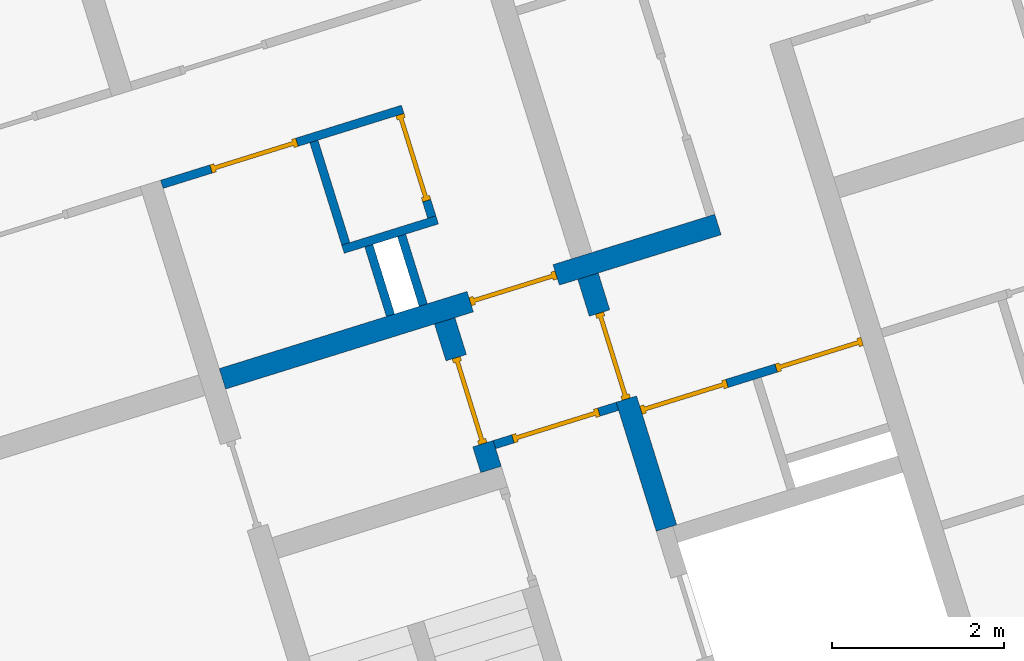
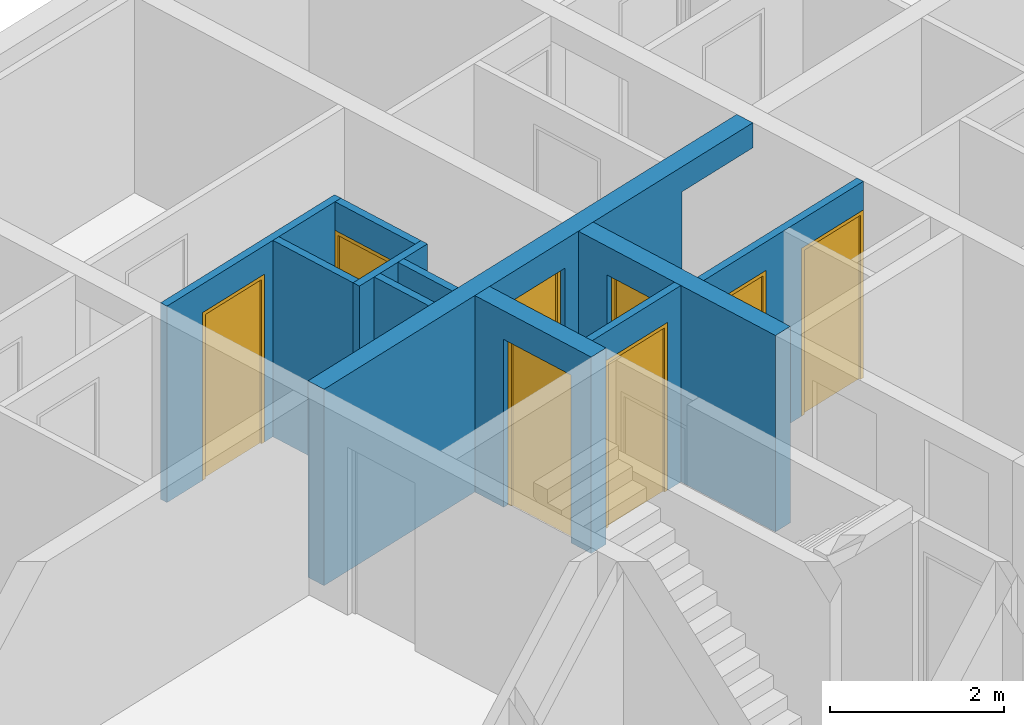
# One storey, part 5 of 9: 11 walls, 8 doors, 11 openings.
"""IFC4 building model written with IfcOpenShell, lengths in metres."""

import ifcopenshell
import ifcopenshell.guid

model = None  # the IFC model being written
_history = None  # IfcOwnerHistory: only IFC2X3 demands one
_inside = {}  # id of a spatial element -> (the spatial element, [elements in it])
_under = {}  # id of a project, library or spatial element -> (it, [spatial elements below it])
_declared = {}  # id of a project -> (the project, [libraries it declares])
_typed = {}  # id of a type object -> (the type object, [elements of that type])
_made_of = {}  # id of a material, layer set ... -> (it, [elements and type objects made of it])


def new_model(schema):
    """Start an empty IFC model of exactly this schema.

    Asked for "IFC4X3", IfcOpenShell would pick the latest addendum, in which some entities
    have other attributes; the version numbers below select the first issue.
    IFC2X3 requires an IfcOwnerHistory on every rooted entity: one is made here for all.
    """
    global model, _history
    if schema == "IFC4X3":
        model = ifcopenshell.file(schema_version=(4, 3, 0, 0))
    else:
        model = ifcopenshell.file(schema=schema)
    _inside.clear()
    _under.clear()
    _declared.clear()
    _typed.clear()
    _made_of.clear()
    _history = None
    if model.schema == "IFC2X3":
        org = make("IfcOrganization", Name="unknown")
        user = make(
            "IfcPersonAndOrganization",
            ThePerson=make("IfcPerson", FamilyName="unknown"),
            TheOrganization=org,
        )
        app = make(
            "IfcApplication",
            ApplicationDeveloper=org,
            Version="unknown",
            ApplicationFullName="unknown",
            ApplicationIdentifier="unknown",
        )
        _history = make(
            "IfcOwnerHistory",
            OwningUser=user,
            OwningApplication=app,
            ChangeAction="ADDED",
            CreationDate=0,
        )
    return model


def make(cls, **values):
    """One entity of the class cls with the attributes given. An attribute that is None is left unset."""
    return model.create_entity(
        cls, **{name: value for name, value in values.items() if value is not None}
    )


def entity(cls, *values):
    """Any entity or typed value of the class cls, its attributes in the order of the schema. None: left unset."""
    e = model.create_entity(cls)
    for i, value in enumerate(values):
        if value is not None:
            e[i] = value
    return e


def rooted(cls, **values):
    """An entity with a GlobalId (a new one), such as an element, a storey or a relation."""
    return make(cls, GlobalId=ifcopenshell.guid.new(), OwnerHistory=_history, **values)


def si_unit(unit_type, name, prefix=None):
    """IfcSIUnit, for example si_unit("LENGTHUNIT", "METRE", prefix="MILLI")."""
    return make("IfcSIUnit", UnitType=unit_type, Prefix=prefix, Name=name)


def converted_unit(unit_type, name, factor, base, dimensions=None, offset=None):
    """IfcConversionBasedUnit, such as the inch: factor (a typed value) times the base unit."""
    return make(
        "IfcConversionBasedUnit"
        if offset is None
        else "IfcConversionBasedUnitWithOffset",
        ConversionOffset=offset,
        Dimensions=None
        if dimensions is None
        else entity("IfcDimensionalExponents", *dimensions),
        UnitType=unit_type,
        Name=name,
        ConversionFactor=make(
            "IfcMeasureWithUnit", ValueComponent=factor, UnitComponent=base
        ),
    )


def assignment(units):
    """IfcUnitAssignment: the units of a project."""
    return None if units is None else make("IfcUnitAssignment", Units=units)


def point(xyz):
    """IfcCartesianPoint."""
    return None if xyz is None else make("IfcCartesianPoint", Coordinates=xyz)


def direction(xyz):
    """IfcDirection."""
    return None if xyz is None else make("IfcDirection", DirectionRatios=xyz)


def frame(location, z_axis=None, x_axis=None):
    """IfcAxis2Placement3D, a coordinate frame: its origin and axes. An axis left out is left unset."""
    return make(
        "IfcAxis2Placement3D",
        Location=point(location),
        Axis=direction(z_axis),
        RefDirection=direction(x_axis),
    )


def origin():
    """The frame at (0, 0, 0) with its axes left unset."""
    return frame((0.0, 0.0, 0.0))


def place(relative_to, where):
    """IfcLocalPlacement: puts the frame where relative to a parent placement (None: the world)."""
    return make(
        "IfcLocalPlacement", PlacementRelTo=relative_to, RelativePlacement=where
    )


def context(
    kind, dimensions, precision=None, world=None, true_north=None, identifier=None
):
    """IfcGeometricRepresentationContext, for example the 3D "Model" context."""
    return make(
        "IfcGeometricRepresentationContext",
        ContextIdentifier=identifier,
        ContextType=kind,
        CoordinateSpaceDimension=dimensions,
        Precision=precision,
        WorldCoordinateSystem=world,
        TrueNorth=true_north,
    )


def subcontext(parent, identifier, kind, view, scale=None):
    """IfcGeometricRepresentationSubContext, for example "Body" below "Model"."""
    return make(
        "IfcGeometricRepresentationSubContext",
        ContextIdentifier=identifier,
        ContextType=kind,
        ParentContext=parent,
        TargetScale=scale,
        TargetView=view,
    )


def project(units=None, contexts=None):
    """IfcProject with its units and contexts."""
    return rooted(
        "IfcProject",
        Name="project",
        RepresentationContexts=contexts,
        UnitsInContext=assignment(units),
    )


def spatial(cls, under=None, at=None, **own):
    """A site, building, storey or space (cls), placed at a placement, below another one or the project."""
    s = rooted(cls, ObjectPlacement=at, **own)
    if under is not None:
        _under.setdefault(under.id(), (under, []))[1].append(s)
    return s


def point_list(points):
    """IfcCartesianPointList2D or 3D."""
    cls = (
        "IfcCartesianPointList2D" if len(points[0]) == 2 else "IfcCartesianPointList3D"
    )
    return make(cls, CoordList=points)


def indexed_curve(points, segments=None, self_intersect=None):
    """IfcIndexedPolyCurve: lines and arcs through numbered points (the first is 1)."""
    return make(
        "IfcIndexedPolyCurve",
        Points=point_list(points),
        Segments=segments,
        SelfIntersect=self_intersect,
    )


def outline(outer, holes=None, kind="AREA"):
    """IfcArbitraryClosedProfileDef: a profile drawn as a closed curve; with holes, ...WithVoids."""
    if holes is None:
        return make("IfcArbitraryClosedProfileDef", ProfileType=kind, OuterCurve=outer)
    return make(
        "IfcArbitraryProfileDefWithVoids",
        ProfileType=kind,
        OuterCurve=outer,
        InnerCurves=holes,
    )


def extrude(swept, where, along, depth):
    """IfcExtrudedAreaSolid: the profile swept, set in the frame where, extruded along a direction by depth."""
    return make(
        "IfcExtrudedAreaSolid",
        SweptArea=swept,
        Position=where,
        ExtrudedDirection=direction(along),
        Depth=depth,
    )


def polygons(points, faces, closed=None, point_numbers=None):
    """IfcPolygonalFaceSet: a face is its outer loop, then its inner loops; points numbered from 1."""
    made = []
    for loops in faces:
        if len(loops) == 1:
            made.append(make("IfcIndexedPolygonalFace", CoordIndex=loops[0]))
        else:
            made.append(
                make(
                    "IfcIndexedPolygonalFaceWithVoids",
                    CoordIndex=loops[0],
                    InnerCoordIndices=loops[1:],
                )
            )
    return make(
        "IfcPolygonalFaceSet",
        Coordinates=point_list(points),
        Closed=closed,
        Faces=made,
        PnIndex=point_numbers,
    )


def shape(context_of_items, identifier, shape_type, items):
    """IfcShapeRepresentation: the items that make up one representation, for example the "Body"."""
    return make(
        "IfcShapeRepresentation",
        ContextOfItems=context_of_items,
        RepresentationIdentifier=identifier,
        RepresentationType=shape_type,
        Items=items,
    )


def source(mapping_origin, context_of_items, identifier, shape_type, items):
    """IfcRepresentationMap: a shape defined once, which mapped items show again and again."""
    return make(
        "IfcRepresentationMap",
        MappingOrigin=mapping_origin,
        MappedRepresentation=shape(context_of_items, identifier, shape_type, items),
    )


def transform(
    local_origin,
    x_axis=None,
    y_axis=None,
    z_axis=None,
    scale=None,
    scale2=None,
    scale3=None,
    uniform=True,
):
    """IfcCartesianTransformationOperator3D, or its non-uniform kind. x_axis, y_axis, z_axis: its Axis1, 2, 3."""
    if uniform:
        return make(
            "IfcCartesianTransformationOperator3D",
            Axis1=direction(x_axis),
            Axis2=direction(y_axis),
            LocalOrigin=point(local_origin),
            Scale=scale,
            Axis3=direction(z_axis),
        )
    return make(
        "IfcCartesianTransformationOperator3DnonUniform",
        Axis1=direction(x_axis),
        Axis2=direction(y_axis),
        LocalOrigin=point(local_origin),
        Scale=scale,
        Axis3=direction(z_axis),
        Scale2=scale2,
        Scale3=scale3,
    )


def mapped(mapping_source, mapping_target):
    """IfcMappedItem: shows the shape of a source again, moved by a transform."""
    return make(
        "IfcMappedItem", MappingSource=mapping_source, MappingTarget=mapping_target
    )


def material(Name=None, Category=None):
    """IfcMaterial."""
    return make("IfcMaterial", Name=Name, Category=Category)


def constituent(of_material, Name=None, Category=None, fraction=None):
    """IfcMaterialConstituent: one of the materials an element consists of."""
    return make(
        "IfcMaterialConstituent",
        Name=Name,
        Material=of_material,
        Fraction=fraction,
        Category=Category,
    )


def constituent_set(constituents=None, Name=None):
    """IfcMaterialConstituentSet."""
    return make(
        "IfcMaterialConstituentSet", Name=Name, MaterialConstituents=constituents
    )


def made_of(thing, what):
    """Note that an element or type object is made of a material, layer set ...; save() writes the relation."""
    if what is not None:
        _made_of.setdefault(what.id(), (what, []))[1].append(thing)
    return thing


def type_object(cls, material=None, **own):
    """A type object (cls), such as IfcWallType, which elements share."""
    return made_of(rooted(cls, **own), material)


def type_shapes(of_type, sources):
    """Give a type object the sources (RepresentationMaps) that its elements show as mapped items."""
    of_type.RepresentationMaps = sources


def element(
    cls,
    number,
    at=None,
    inside=None,
    cuts=None,
    type_object=None,
    material=None,
    context=None,
    identifier="Body",
    shape_type=None,
    held_by="IfcProductDefinitionShape",
    body=None,
    shapes=None,
    **own,
):
    """One element of the class cls, such as IfcWall. Its Tag is "e" and its number.

    at: its placement. inside: the storey or other place that contains it. cuts: it is an
    opening in that element (IfcRelVoidsElement). A single representation is given by context,
    identifier, shape_type and body (its items); several are given by shapes. held_by: the class
    of the entity that holds the representations. save() writes the other relations.
    """
    e = rooted(cls, Tag="e%d" % number, ObjectPlacement=at, **own)
    if body is not None:
        shapes = [shape(context, identifier, shape_type, body)]
    if shapes is not None:
        e.Representation = make(held_by, Representations=shapes)
    if inside is not None:
        _inside.setdefault(inside.id(), (inside, []))[1].append(e)
    if cuts is not None:
        rooted(
            "IfcRelVoidsElement", RelatingBuildingElement=cuts, RelatedOpeningElement=e
        )
    if type_object is not None:
        _typed.setdefault(type_object.id(), (type_object, []))[1].append(e)
    return made_of(e, material)


def fill(opening, filler):
    """IfcRelFillsElement: the door or window that sits in an opening."""
    return rooted(
        "IfcRelFillsElement",
        RelatingOpeningElement=opening,
        RelatedBuildingElement=filler,
    )


def aggregate(whole, parts):
    """IfcRelAggregates: a whole, such as a stair, and the parts it consists of."""
    return rooted("IfcRelAggregates", RelatingObject=whole, RelatedObjects=parts)


def save(model, path):
    """Write the relations noted so far, then the file.

    IfcRelAggregates (storeys below a building ...), IfcRelContainedInSpatialStructure (elements
    in a storey), IfcRelDefinesByType, IfcRelAssociatesMaterial and IfcRelDeclares: one each for
    every whole, place, type object, material and project.
    """
    for whole, parts in _under.values():
        aggregate(whole, parts)
    for where, things in _inside.values():
        rooted(
            "IfcRelContainedInSpatialStructure",
            RelatedElements=things,
            RelatingStructure=where,
        )
    for kind, things in _typed.values():
        rooted("IfcRelDefinesByType", RelatedObjects=things, RelatingType=kind)
    for what, things in _made_of.values():
        rooted("IfcRelAssociatesMaterial", RelatedObjects=things, RelatingMaterial=what)
    for by, libraries in _declared.values():
        rooted("IfcRelDeclares", RelatingContext=by, RelatedDefinitions=libraries)
    model.write(path)


model = new_model("IFC4")

# Units and contexts
model_context = context("Model", 3, precision=1e-05, world=origin(), true_north=direction((6.12323399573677e-17, 1.0)))
body_context = subcontext(model_context, "Body", "Model", "MODEL_VIEW")
ifc_project = project(units=[si_unit("LENGTHUNIT", "METRE"), si_unit("AREAUNIT", "SQUARE_METRE"), converted_unit("PLANEANGLEUNIT", "DEGREE", entity("IfcPlaneAngleMeasure", 0.0174532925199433), si_unit("PLANEANGLEUNIT", "RADIAN"), dimensions=[0, 0, 0, 0, 0, 0, 0]), si_unit("VOLUMEUNIT", "CUBIC_METRE")], contexts=[model_context])

# Site, building, storey
site_placement = place(None, frame((13.1347999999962, 11.9886000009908, 0.0), z_axis=(0.0, 0.0, 1.0), x_axis=(0.954770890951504, 0.297342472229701, 0.0)))
site = spatial("IfcSite", under=ifc_project, at=site_placement, Name="Schiehaven", CompositionType="ELEMENT")
building_placement = place(site_placement, origin())
building = spatial("IfcBuilding", under=site, at=building_placement, Name="VORM huis", CompositionType="ELEMENT")
storey_placement = place(building_placement, frame((0.0, 0.0, 15.9)))
storey = spatial("IfcBuildingStorey", under=building, at=storey_placement, Name="05 vijfde verdieping", CompositionType="ELEMENT", Elevation=15.9)

# Wall, openings, door
ifc_material_1 = material(Name="beton_gewapend_ihw", Category="Miscellaneous")
wall_type_1 = type_object("IfcWallType", Name="Basic Wall:28_WA_skelet_wand 250mm_gen", PredefinedType="STANDARD")
wall_1_placement = place(storey_placement, frame((72.3749999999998, 22.1999999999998, 0.0), z_axis=(0.0, 0.0, 1.0), x_axis=(-1.0, 0.0, 0.0)))
wall_1 = element("IfcWall", 1, at=wall_1_placement, inside=storey, type_object=wall_type_1, material=ifc_material_1, Name="Constructieve wand", ObjectType="Wand", PredefinedType="NOTDEFINED", context=body_context, shape_type="Tessellation", body=[
    polygons([(4.225, -0.124999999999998, 2.34999999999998), (4.225, -0.124999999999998, -2.16573425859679e-15), (7.25000000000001, -0.124999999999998, -2.16573425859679e-15), (7.25000000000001, -0.124999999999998, 2.75), (9.99819487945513e-15, -0.124999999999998, 2.75), (9.99819487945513e-15, -0.124999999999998, 2.4), (1.2, -0.124999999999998, 2.4), (1.2, -0.124999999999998, -2.16573425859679e-15), (3.175, -0.124999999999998, -2.16573425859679e-15), (3.175, -0.124999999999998, 2.34999999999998), (7.25000000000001, 0.125000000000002, -2.16573425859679e-15), (4.22500000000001, 0.125000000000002, -2.16573425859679e-15), (4.22500000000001, 0.125000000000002, 2.34999999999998), (3.175, 0.125000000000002, 2.34999999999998), (3.175, 0.125000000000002, -2.16573425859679e-15), (1.2, 0.125000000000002, -2.16573425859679e-15), (1.2, 0.125000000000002, 2.4), (1.32815610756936e-14, 0.125000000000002, 2.4), (1.32815610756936e-14, 0.125000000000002, 2.75), (7.25, 0.125000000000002, 2.75)], [[[1, 2, 3, 4, 5, 6, 7, 8, 9, 10]], [[11, 12, 13, 14, 15, 16, 17, 18, 19, 20]], [[9, 8, 16, 15]], [[5, 4, 20, 19]], [[5, 19, 18, 6]], [[15, 14, 10, 9]], [[13, 12, 2, 1]], [[14, 13, 1, 10]], [[7, 17, 16, 8]], [[17, 7, 6, 18]], [[4, 3, 11, 20]], [[3, 2, 12, 11]]], closed=True),
])
opening_1_placement = place(wall_1_placement, origin())
element("IfcOpeningElement", 2, at=opening_1_placement, cuts=wall_1, Name="Constructieve wand", PredefinedType="OPENING", context=body_context, shape_type="SweptSolid", body=[
    extrude(outline(indexed_curve([(-1.2, -0.600000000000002), (1.2, -0.600000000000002), (1.2, 0.600000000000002), (-1.2, 0.600000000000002), (-1.2, -0.600000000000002)], self_intersect=False)), frame((0.599999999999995, -0.124999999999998, 1.2), z_axis=(0.0, 1.0, 0.0), x_axis=(0.0, 0.0, -1.0)), (0.0, 0.0, 1.0), 0.250000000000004),
])
opening_2_placement = place(wall_1_placement, frame((3.175, -0.124999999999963, 0.0)))
opening_2 = element("IfcOpeningElement", 3, at=opening_2_placement, cuts=wall_1, Name="Woningtoegangsdeur", PredefinedType="OPENING", context=body_context, shape_type="SweptSolid", body=[
    extrude(outline(indexed_curve([(2.34999999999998, 2.2221558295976e-31), (2.34999999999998, 1.05), (0.0, 1.05), (0.0, 2.2221558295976e-31), (2.34999999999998, 2.2221558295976e-31)], self_intersect=False)), frame((0.0, 0.0, 0.0), z_axis=(0.0, 1.0, 0.0), x_axis=(0.0, 0.0, 1.0)), (0.0, 0.0, 1.0), 0.25),
])
ifc_material_2 = material(Name="PD_a_binnenwandopeningen", Category="Miscellaneous")
ifc_constituent_1 = constituent(ifc_material_2, Name="PD_a_binnenwandopeningen", Category="Miscellaneous")
ifc_material_3 = material(Name="metaal_aluminium_ntb", Category="Miscellaneous")
ifc_constituent_2 = constituent(ifc_material_3, Name="metaal_aluminium_ntb", Category="Miscellaneous")
ifc_constituent_set_1 = constituent_set(constituents=[ifc_constituent_1, ifc_constituent_2])
ifc_constituent_3 = constituent(ifc_material_2, Name="PD_a_binnenwandopeningen", Category="Miscellaneous")
ifc_constituent_4 = constituent(ifc_material_3, Name="Panel", Category="Miscellaneous")
ifc_constituent_set_2 = constituent_set(constituents=[ifc_constituent_3, ifc_constituent_4])
door_type_1 = type_object("IfcDoorType", Name="32_DO_binnendeur enkel:woningtoegangsdeur", OperationType="REVOLVING", PredefinedType="DOOR", material=ifc_constituent_set_2)
shared_shape_1 = source(origin(), body_context, "Body", "SweptSolid", [
    extrude(outline(indexed_curve([(0.475, -1.16249999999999), (0.525000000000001, -1.16249999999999), (0.525000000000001, 1.18749999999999), (-0.525000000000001, 1.18749999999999), (-0.525000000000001, -1.16249999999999), (-0.475, -1.16249999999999), (-0.475, 1.13749999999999), (0.475, 1.13749999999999), (0.475, -1.16249999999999)], self_intersect=False)), frame((0.525000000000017, 0.174999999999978, 1.16249999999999), z_axis=(0.0, -1.0, 0.0), x_axis=(1.0, 0.0, 0.0)), (0.0, 0.0, 1.0), 0.1),
    extrude(outline(indexed_curve([(-0.475, -0.025), (0.475, -0.025), (0.475, 0.025), (-0.475, 0.025), (-0.475, -0.025)], self_intersect=False)), frame((0.525000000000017, 0.12499999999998, 0.0)), (0.0, 0.0, 1.0), 2.29999999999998),
])
type_shapes(door_type_1, [shared_shape_1])
door_1_placement = place(opening_2_placement, origin())
door_1 = element("IfcDoor", 4, at=door_1_placement, inside=storey, type_object=door_type_1, material=ifc_constituent_set_1, Name="Woningtoegangsdeur", ObjectType="Deur", OperationType="REVOLVING", OverallHeight=2.34999999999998, OverallWidth=1.05, PredefinedType="DOOR", context=body_context, shape_type="MappedRepresentation", body=[
    mapped(shared_shape_1, transform((0.0, 0.0, 0.0), scale=1.0)),
])
fill(opening_2, door_1)

# Wall, opening, door
ifc_material_4 = material(Name="ntb_ntb_ntb", Category="Miscellaneous")
wall_type_2 = type_object("IfcWallType", Name="Basic Wall:22_WA_afbouw_binnenwand 250mm_gen", PredefinedType="STANDARD")
wall_2_placement = place(storey_placement, frame((67.7999999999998, 20.2599999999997, 0.0), z_axis=(0.0, 0.0, 1.0), x_axis=(0.0, 1.0, 0.0)))
wall_2 = element("IfcWall", 5, at=wall_2_placement, inside=storey, type_object=wall_type_2, material=ifc_material_4, Name="Binnenwand", ObjectType="Wand", PredefinedType="NOTDEFINED", context=body_context, shape_type="Tessellation", body=[
    polygons([(4.33146851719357e-15, -0.125000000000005, -2.16573425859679e-15), (0.215000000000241, -0.125, -2.16573425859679e-15), (0.31500000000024, -0.125000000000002, -2.16573425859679e-15), (0.31500000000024, -0.125000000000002, 2.34999999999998), (1.36500000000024, -0.124999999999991, 2.34999999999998), (1.36500000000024, -0.124999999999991, -2.16573425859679e-15), (1.81500000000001, -0.124999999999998, -2.16573425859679e-15), (1.81500000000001, -0.124999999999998, 2.75), (0.31500000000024, -0.125000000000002, 2.75), (0.215000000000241, -0.125, 2.75), (4.33146851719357e-15, -0.125000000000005, 2.75), (0.31500000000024, 0.125000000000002, 2.34999999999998), (0.31500000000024, 0.125000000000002, -2.16573425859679e-15), (8.66293703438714e-15, 0.125000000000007, -2.16573425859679e-15), (4.33146851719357e-15, 0.125000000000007, 2.75), (1.81500000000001, 0.124999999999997, 2.75), (1.81500000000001, 0.124999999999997, -2.16573425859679e-15), (1.36500000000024, 0.125000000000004, -2.16573425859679e-15), (1.36500000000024, 0.125000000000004, 2.34999999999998)], [[[1, 2, 3, 4, 5, 6, 7, 8, 9, 10, 11]], [[12, 13, 14, 15, 16, 17, 18, 19]], [[14, 13, 3, 2, 1]], [[8, 7, 17, 16]], [[11, 10, 9, 8, 16, 15]], [[6, 5, 19, 18]], [[4, 3, 13, 12]], [[5, 4, 12, 19]], [[1, 11, 15, 14]], [[18, 17, 7, 6]]], closed=True),
])
opening_3_placement = place(wall_2_placement, frame((1.36500000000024, 0.125000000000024, 0.0)))
opening_3 = element("IfcOpeningElement", 6, at=opening_3_placement, cuts=wall_2, Name="Woningtoegangsdeur", PredefinedType="OPENING", context=body_context, shape_type="SweptSolid", body=[
    extrude(outline(indexed_curve([(2.34999999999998, 0.0), (2.34999999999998, 1.05), (0.0, 1.05), (0.0, 0.0), (2.34999999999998, 0.0)], self_intersect=False)), frame((0.0, 0.0, 0.0), z_axis=(0.0, -1.0, 0.0), x_axis=(0.0, 0.0, 1.0)), (0.0, 0.0, 1.0), 0.25),
])
ifc_constituent_5 = constituent(ifc_material_2, Name="PD_a_binnenwandopeningen", Category="Miscellaneous")
ifc_constituent_6 = constituent(ifc_material_3, Name="metaal_aluminium_ntb", Category="Miscellaneous")
ifc_constituent_set_3 = constituent_set(constituents=[ifc_constituent_5, ifc_constituent_6])
ifc_constituent_7 = constituent(ifc_material_2, Name="PD_a_binnenwandopeningen", Category="Miscellaneous")
ifc_constituent_8 = constituent(ifc_material_3, Name="Panel", Category="Miscellaneous")
ifc_constituent_set_4 = constituent_set(constituents=[ifc_constituent_7, ifc_constituent_8])
door_type_2 = type_object("IfcDoorType", Name="32_DO_binnendeur enkel:woningtoegangsdeur", OperationType="REVOLVING", PredefinedType="DOOR", material=ifc_constituent_set_4)
shared_shape_2 = source(origin(), body_context, "Body", "SweptSolid", [
    extrude(outline(indexed_curve([(0.475, -1.16249999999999), (0.525000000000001, -1.16249999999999), (0.525000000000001, 1.18749999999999), (-0.525000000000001, 1.18749999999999), (-0.525000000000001, -1.16249999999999), (-0.475, -1.16249999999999), (-0.475, 1.13749999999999), (0.475, 1.13749999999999), (0.475, -1.16249999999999)], self_intersect=False)), frame((0.525000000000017, 0.174999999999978, 1.16249999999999), z_axis=(0.0, -1.0, 0.0), x_axis=(1.0, 0.0, 0.0)), (0.0, 0.0, 1.0), 0.1),
    extrude(outline(indexed_curve([(-0.475, -0.025), (0.475, -0.025), (0.475, 0.025), (-0.475, 0.025), (-0.475, -0.025)], self_intersect=False)), frame((0.525000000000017, 0.12499999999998, 0.0)), (0.0, 0.0, 1.0), 2.29999999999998),
])
type_shapes(door_type_2, [shared_shape_2])
door_2_placement = place(opening_3_placement, frame((0.0, 0.0, 0.0), z_axis=(0.0, 0.0, 1.0), x_axis=(-1.0, 0.0, 0.0)))
door_2 = element("IfcDoor", 7, at=door_2_placement, inside=storey, type_object=door_type_2, material=ifc_constituent_set_3, Name="Woningtoegangsdeur", ObjectType="Deur", OperationType="REVOLVING", OverallHeight=2.34999999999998, OverallWidth=1.05, PredefinedType="DOOR", context=body_context, shape_type="MappedRepresentation", body=[
    mapped(shared_shape_2, transform((0.0, 0.0, 0.0), scale=1.0)),
])
fill(opening_3, door_2)

wall_3_placement = place(storey_placement, frame((69.5499999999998, 19.0, 0.0), z_axis=(0.0, 0.0, 1.0), x_axis=(0.0, 1.0, 0.0)))
wall_3 = element("IfcWall", 8, at=wall_3_placement, inside=storey, type_object=wall_type_2, material=ifc_material_4, Name="Binnenwand", ObjectType="Wand", PredefinedType="NOTDEFINED", context=body_context, shape_type="Tessellation", body=[
    polygons([(2.62500000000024, -0.12500000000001, 2.34999999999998), (2.62500000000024, -0.12500000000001, -2.16573425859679e-15), (3.075, -0.125000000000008, -2.16573425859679e-15), (3.075, -0.125000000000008, 2.75), (0.0, -0.125000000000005, 2.75), (0.0, -0.125000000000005, -2.16573425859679e-15), (1.57500000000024, -0.125000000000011, -2.16573425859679e-15), (1.57500000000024, -0.125000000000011, 2.34999999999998), (3.075, 0.124999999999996, -2.16573425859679e-15), (2.62500000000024, 0.125000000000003, -2.16573425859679e-15), (2.62500000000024, 0.125000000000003, 2.34999999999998), (1.57500000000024, 0.124999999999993, 2.34999999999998), (1.57500000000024, 0.124999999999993, -2.16573425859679e-15), (1.4750000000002, 0.124999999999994, -2.16573425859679e-15), (2.16573425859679e-15, 0.12499999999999, -2.16573425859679e-15), (2.16573425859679e-15, 0.12499999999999, 2.75), (1.4750000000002, 0.124999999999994, 2.75), (1.5750000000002, 0.124999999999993, 2.75), (3.075, 0.124999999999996, 2.75)], [[[1, 2, 3, 4, 5, 6, 7, 8]], [[9, 10, 11, 12, 13, 14, 15, 16, 17, 18, 19]], [[7, 6, 15, 14, 13]], [[4, 3, 9, 19]], [[5, 4, 19, 18, 17, 16]], [[6, 5, 16, 15]], [[13, 12, 8, 7]], [[11, 10, 2, 1]], [[12, 11, 1, 8]], [[3, 2, 10, 9]]], closed=True),
])
opening_4_placement = place(wall_3_placement, frame((1.57499999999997, -0.124999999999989, 0.0)))
opening_4 = element("IfcOpeningElement", 9, at=opening_4_placement, cuts=wall_3, Name="Woningtoegangsdeur", PredefinedType="OPENING", context=body_context, shape_type="SweptSolid", body=[
    extrude(outline(indexed_curve([(2.34999999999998, 0.0), (2.34999999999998, 1.05), (0.0, 1.05), (0.0, 0.0), (2.34999999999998, 0.0)], self_intersect=False)), frame((0.0, 0.0, 0.0), z_axis=(0.0, 1.0, 0.0), x_axis=(0.0, 0.0, 1.0)), (0.0, 0.0, 1.0), 0.25),
])
ifc_constituent_9 = constituent(ifc_material_2, Name="PD_a_binnenwandopeningen", Category="Miscellaneous")
ifc_constituent_10 = constituent(ifc_material_3, Name="metaal_aluminium_ntb", Category="Miscellaneous")
ifc_constituent_set_5 = constituent_set(constituents=[ifc_constituent_9, ifc_constituent_10])
door_3_placement = place(opening_4_placement, origin())
door_3 = element("IfcDoor", 10, at=door_3_placement, inside=storey, type_object=door_type_2, material=ifc_constituent_set_5, Name="Woningtoegangsdeur", ObjectType="Deur", OperationType="REVOLVING", OverallHeight=2.34999999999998, OverallWidth=1.05, PredefinedType="DOOR", context=body_context, shape_type="MappedRepresentation", body=[
    mapped(shared_shape_2, transform((0.0, 0.0, 0.0), scale=1.0)),
])
fill(opening_4, door_3)

wall_type_3 = type_object("IfcWallType", Name="Basic Wall:22_WA_afbouw_binnenwand 100mm_gen", PredefinedType="STANDARD")
wall_4_placement = place(storey_placement, frame((67.9249999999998, 20.5249999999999, 0.0)))
wall_4 = element("IfcWall", 11, at=wall_4_placement, inside=storey, type_object=wall_type_3, material=ifc_material_4, Name="Binnenwand", ObjectType="Wand", PredefinedType="NOTDEFINED", context=body_context, shape_type="Tessellation", body=[
    polygons([(1.50000000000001, -0.0500000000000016, 2.75), (1.03359612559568e-15, -0.0499999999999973, 2.75), (1.03359612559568e-15, -0.0499999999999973, -2.16573425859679e-15), (0.225000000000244, -0.0500000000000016, -2.16573425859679e-15), (0.225000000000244, -0.0500000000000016, 2.34999999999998), (1.27500000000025, -0.0500000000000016, 2.34999999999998), (1.27500000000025, -0.0500000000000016, -2.16573425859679e-15), (1.50000000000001, -0.0500000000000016, -2.16573425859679e-15), (6.15545946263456e-16, 0.0500000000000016, 2.75), (1.50000000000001, 0.0499999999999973, 2.75), (1.50000000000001, 0.0499999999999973, 2.34999999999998), (1.50000000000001, 0.0499999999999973, -2.16573425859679e-15), (1.27500000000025, 0.0499999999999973, -2.16573425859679e-15), (1.27500000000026, 0.0499999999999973, 2.34999999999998), (0.225000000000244, 0.0499999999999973, 2.34999999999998), (0.225000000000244, 0.0499999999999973, -2.16573425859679e-15), (6.15545946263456e-16, 0.0500000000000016, -2.16573425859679e-15), (6.15545946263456e-16, 0.0500000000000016, 2.34999999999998)], [[[1, 2, 3, 4, 5, 6, 7, 8]], [[9, 10, 11, 12, 13, 14, 15, 16, 17, 18]], [[3, 17, 16, 4]], [[2, 1, 10, 9]], [[15, 5, 4, 16]], [[5, 15, 14, 6]], [[6, 14, 13, 7]], [[1, 8, 12, 11, 10]], [[3, 2, 9, 18, 17]], [[12, 8, 7, 13]]], closed=True),
])
opening_5_placement = place(wall_4_placement, frame((1.27500000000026, 0.0499999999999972, 0.0)))
opening_5 = element("IfcOpeningElement", 12, at=opening_5_placement, cuts=wall_4, Name="Vluchtdeur", PredefinedType="OPENING", context=body_context, shape_type="SweptSolid", body=[
    extrude(outline(indexed_curve([(2.34999999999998, -1.78601455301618e-29), (2.34999999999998, 1.05), (0.0, 1.05), (0.0, -1.78601455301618e-29), (2.34999999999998, -1.78601455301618e-29)], self_intersect=False)), frame((0.0, 0.0, 0.0), z_axis=(0.0, -1.0, 0.0), x_axis=(0.0, 0.0, 1.0)), (0.0, 0.0, 1.0), 0.1),
])
ifc_constituent_11 = constituent(ifc_material_2, Name="PD_a_binnenwandopeningen", Category="Miscellaneous")
ifc_constituent_12 = constituent(ifc_material_3, Name="metaal_aluminium_ntb", Category="Miscellaneous")
ifc_constituent_set_6 = constituent_set(constituents=[ifc_constituent_11, ifc_constituent_12])
ifc_constituent_13 = constituent(ifc_material_2, Name="PD_a_binnenwandopeningen", Category="Miscellaneous")
ifc_constituent_14 = constituent(ifc_material_3, Name="Panel", Category="Miscellaneous")
ifc_constituent_set_7 = constituent_set(constituents=[ifc_constituent_13, ifc_constituent_14])
door_type_3 = type_object("IfcDoorType", Name="32_DO_binnendeur enkel:binnendeur zelfsluitend 30min", OperationType="NOTDEFINED", PredefinedType="DOOR", material=ifc_constituent_set_7)
shared_shape_3 = source(origin(), body_context, "Body", "SweptSolid", [
    extrude(outline(indexed_curve([(0.475, -1.16249999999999), (0.525, -1.16249999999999), (0.525, 1.18749999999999), (-0.525, 1.18749999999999), (-0.525, -1.16249999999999), (-0.475, -1.16249999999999), (-0.475, 1.13749999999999), (0.475, 1.13749999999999), (0.475, -1.16249999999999)], self_intersect=False)), frame((0.525000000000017, 0.100000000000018, 1.16249999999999), z_axis=(0.0, -1.0, 0.0), x_axis=(1.0, 0.0, 0.0)), (0.0, 0.0, 1.0), 0.1),
    extrude(outline(indexed_curve([(-0.475, -0.025), (0.475, -0.025), (0.475, 0.025), (-0.475, 0.025), (-0.475, -0.025)], self_intersect=False)), frame((0.525000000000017, 0.0499999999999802, 0.0)), (0.0, 0.0, 1.0), 2.29999999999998),
])
type_shapes(door_type_3, [shared_shape_3])
door_4_placement = place(opening_5_placement, frame((0.0, 0.0, 0.0), z_axis=(0.0, 0.0, 1.0), x_axis=(-1.0, 0.0, 0.0)))
door_4 = element("IfcDoor", 13, at=door_4_placement, inside=storey, type_object=door_type_3, material=ifc_constituent_set_6, Name="Vluchtdeur", ObjectType="Deur", OperationType="NOTDEFINED", OverallHeight=2.34999999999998, OverallWidth=1.05, PredefinedType="DOOR", context=body_context, shape_type="MappedRepresentation", body=[
    mapped(shared_shape_3, transform((0.0, 0.0, 0.0), scale=1.0)),
])
fill(opening_5, door_4)

# Wall, openings, door
wall_5_placement = place(storey_placement, frame((65.1249999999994, 24.5750000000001, 0.0)))
wall_5 = element("IfcWall", 14, at=wall_5_placement, inside=storey, type_object=wall_type_3, material=ifc_material_4, Name="Binnenwand", ObjectType="Wand", PredefinedType="NOTDEFINED", context=body_context, shape_type="Tessellation", body=[
    polygons([(1.65, -0.0499999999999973, 2.34999999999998), (1.65, -0.0499999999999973, 0.0), (1.79100000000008, -0.049999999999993, 0.0), (1.89100000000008, -0.0499999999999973, 0.0), (2.94100000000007, -0.0499999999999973, 0.0), (2.94100000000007, -0.0499999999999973, 2.34999999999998), (2.94100000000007, -0.0499999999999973, 2.75), (2.84100000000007, -0.0499999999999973, 2.75), (1.89100000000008, -0.0499999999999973, 2.75), (1.79100000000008, -0.049999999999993, 2.75), (-1.42600901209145e-15, -0.0499999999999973, 2.75), (-1.42600901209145e-15, -0.0499999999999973, 0.0), (0.600000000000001, -0.049999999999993, 0.0), (0.600000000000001, -0.049999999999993, 2.34999999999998), (2.94100000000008, 0.0500000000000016, 0.0), (1.65000000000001, 0.0500000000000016, 0.0), (1.65000000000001, 0.0500000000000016, 2.34999999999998), (0.600000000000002, 0.050000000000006, 2.34999999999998), (0.600000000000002, 0.050000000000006, 0.0), (-3.36814153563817e-16, 0.0500000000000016, 0.0), (-3.36814153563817e-16, 0.0500000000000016, 2.75), (2.94100000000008, 0.0500000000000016, 2.75)], [[[1, 2, 3, 4, 5, 6, 7, 8, 9, 10, 11, 12, 13, 14]], [[15, 16, 17, 18, 19, 20, 21, 22]], [[13, 12, 20, 19]], [[11, 10, 9, 8, 7, 22, 21]], [[12, 11, 21, 20]], [[19, 18, 14, 13]], [[17, 16, 2, 1]], [[18, 17, 1, 14]], [[7, 6, 5, 15, 22]], [[5, 4, 3, 2, 16, 15]]], closed=True),
])
opening_6_placement = place(wall_5_placement, origin())
element("IfcOpeningElement", 15, at=opening_6_placement, cuts=wall_5, Name="Binnendeur", PredefinedType="OPENING", context=body_context, shape_type="SweptSolid", body=[
    extrude(outline(indexed_curve([(-0.0499999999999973, -1.17499999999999), (0.050000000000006, -1.17499999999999), (0.050000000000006, 1.17499999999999), (-0.0499999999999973, 1.17499999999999), (-0.0499999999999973, -1.17499999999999)], self_intersect=False)), frame((2.89100000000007, -1.1, 1.17499999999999), z_axis=(0.0, 1.0, 0.0), x_axis=(1.0, 0.0, 0.0)), (0.0, 0.0, 1.0), 1.05),
])
opening_7_placement = place(wall_5_placement, frame((0.600000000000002, -0.0499999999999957, 0.0)))
opening_7 = element("IfcOpeningElement", 16, at=opening_7_placement, cuts=wall_5, Name="Binnendeur", PredefinedType="OPENING", context=body_context, shape_type="SweptSolid", body=[
    extrude(outline(indexed_curve([(2.34999999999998, 3.02234910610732e-29), (2.34999999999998, 1.05), (0.0, 1.05), (0.0, 3.02234910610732e-29), (2.34999999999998, 3.02234910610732e-29)], self_intersect=False)), frame((0.0, 0.0, 0.0), z_axis=(0.0, 1.0, 0.0), x_axis=(0.0, 0.0, 1.0)), (0.0, 0.0, 1.0), 0.1),
])
ifc_constituent_15 = constituent(ifc_material_2, Name="PD_a_binnenwandopeningen", Category="Miscellaneous")
ifc_constituent_16 = constituent(ifc_material_3, Name="metaal_aluminium_ntb", Category="Miscellaneous")
ifc_constituent_set_8 = constituent_set(constituents=[ifc_constituent_15, ifc_constituent_16])
ifc_constituent_17 = constituent(ifc_material_2, Name="PD_a_binnenwandopeningen", Category="Miscellaneous")
ifc_constituent_18 = constituent(ifc_material_3, Name="Panel", Category="Miscellaneous")
ifc_constituent_set_9 = constituent_set(constituents=[ifc_constituent_17, ifc_constituent_18])
door_type_4 = type_object("IfcDoorType", Name="32_DO_binnendeur enkel:binnendeur", OperationType="REVOLVING", PredefinedType="DOOR", material=ifc_constituent_set_9)
shared_shape_4 = source(origin(), body_context, "Body", "SweptSolid", [
    extrude(outline(indexed_curve([(0.475, -1.16249999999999), (0.525, -1.16249999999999), (0.525, 1.18749999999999), (-0.525, 1.18749999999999), (-0.525, -1.16249999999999), (-0.475, -1.16249999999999), (-0.475, 1.13749999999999), (0.475, 1.13749999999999), (0.475, -1.16249999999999)], self_intersect=False)), frame((0.525000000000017, 0.100000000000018, 1.16249999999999), z_axis=(0.0, -1.0, 0.0), x_axis=(1.0, 0.0, 0.0)), (0.0, 0.0, 1.0), 0.1),
    extrude(outline(indexed_curve([(-0.475, -0.025), (0.475, -0.025), (0.475, 0.025), (-0.475, 0.025), (-0.475, -0.025)], self_intersect=False)), frame((0.525000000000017, 0.0499999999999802, 0.0)), (0.0, 0.0, 1.0), 2.29999999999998),
])
type_shapes(door_type_4, [shared_shape_4])
door_5_placement = place(opening_7_placement, origin())
door_5 = element("IfcDoor", 17, at=door_5_placement, inside=storey, type_object=door_type_4, material=ifc_constituent_set_8, Name="Binnendeur", ObjectType="Deur", OperationType="REVOLVING", OverallHeight=2.34999999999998, OverallWidth=1.05, PredefinedType="DOOR", context=body_context, shape_type="MappedRepresentation", body=[
    mapped(shared_shape_4, transform((0.0, 0.0, 0.0), scale=1.0)),
])
fill(opening_7, door_5)

# Wall, opening, door
wall_6_placement = place(storey_placement, frame((68.0159999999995, 24.5250000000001, 0.0), z_axis=(0.0, 0.0, 1.0), x_axis=(0.0, -1.0, 0.0)))
wall_6 = element("IfcWall", 18, at=wall_6_placement, inside=storey, type_object=wall_type_3, material=ifc_material_4, Name="Binnenwand", ObjectType="Wand", PredefinedType="NOTDEFINED", context=body_context, shape_type="Tessellation", body=[
    polygons([(1.24999999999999, -0.0500000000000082, 2.75), (-4.33146851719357e-15, -0.0500000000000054, 2.75), (-4.33146851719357e-15, -0.0500000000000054, 2.34999999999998), (1.05, -0.0500000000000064, 2.34999999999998), (1.05, -0.0500000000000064, 0.0), (1.24999999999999, -0.0500000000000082, 0.0), (0.0, 0.0499999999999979, 2.75), (1.24999999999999, 0.049999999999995, 2.75), (1.24999999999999, 0.049999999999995, 0.0), (1.05, 0.0499999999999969, 0.0), (1.05, 0.0499999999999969, 2.34999999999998), (0.0, 0.0499999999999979, 2.34999999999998)], [[[1, 2, 3, 4, 5, 6]], [[7, 8, 9, 10, 11, 12]], [[9, 6, 5, 10]], [[2, 1, 8, 7]], [[4, 11, 10, 5]], [[11, 4, 3, 12]], [[1, 6, 9, 8]], [[2, 7, 12, 3]]], closed=True),
])
opening_8_placement = place(wall_6_placement, frame((0.0, -0.050000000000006, 0.0)))
opening_8 = element("IfcOpeningElement", 19, at=opening_8_placement, cuts=wall_6, Name="Binnendeur", PredefinedType="OPENING", context=body_context, shape_type="SweptSolid", body=[
    extrude(outline(indexed_curve([(2.34999999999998, -9.61779215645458e-31), (2.34999999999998, 1.05), (0.0, 1.05), (0.0, -9.61779215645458e-31), (2.34999999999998, -9.61779215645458e-31)], self_intersect=False)), frame((0.0, 0.0, 0.0), z_axis=(0.0, 1.0, 0.0), x_axis=(0.0, 0.0, 1.0)), (0.0, 0.0, 1.0), 0.1),
])
ifc_constituent_19 = constituent(ifc_material_2, Name="PD_a_binnenwandopeningen", Category="Miscellaneous")
ifc_constituent_20 = constituent(ifc_material_3, Name="metaal_aluminium_ntb", Category="Miscellaneous")
ifc_constituent_set_10 = constituent_set(constituents=[ifc_constituent_19, ifc_constituent_20])
door_6_placement = place(opening_8_placement, origin())
door_6 = element("IfcDoor", 20, at=door_6_placement, inside=storey, type_object=door_type_4, material=ifc_constituent_set_10, Name="Binnendeur", ObjectType="Deur", OperationType="REVOLVING", OverallHeight=2.34999999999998, OverallWidth=1.05, PredefinedType="DOOR", context=body_context, shape_type="MappedRepresentation", body=[
    mapped(shared_shape_4, transform((0.0, 0.0, 0.0), scale=1.0)),
])
fill(opening_8, door_6)

# Walls
wall_7_placement = place(storey_placement, frame((66.9159999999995, 23.2250000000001, 0.0)))
element("IfcWall", 21, at=wall_7_placement, inside=storey, type_object=wall_type_3, material=ifc_material_4, Name="Binnenwand", ObjectType="Wand", PredefinedType="NOTDEFINED", context=body_context, shape_type="SweptSolid", body=[
    extrude(outline(indexed_curve([(1.15, 0.0500000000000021), (5.44597429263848e-16, 0.0500000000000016), (-5.44597429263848e-16, -0.0500000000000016), (1.15, -0.0500000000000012), (1.15, 0.0500000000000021)], self_intersect=False)), origin(), (0.0, 0.0, 1.0), 2.75),
])
wall_8_placement = place(storey_placement, frame((66.9659999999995, 23.2750000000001, 0.0), z_axis=(0.0, 0.0, 1.0), x_axis=(0.0, 1.0, 0.0)))
element("IfcWall", 22, at=wall_8_placement, inside=storey, type_object=wall_type_3, material=ifc_material_4, Name="Binnenwand", ObjectType="Wand", PredefinedType="NOTDEFINED", context=body_context, shape_type="SweptSolid", body=[
    extrude(outline(indexed_curve([(1.25, 0.0499999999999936), (4.9348290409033e-16, 0.0499999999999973), (-4.9348290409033e-16, -0.0499999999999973), (1.25, -0.050000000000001), (1.25, 0.0499999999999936)], self_intersect=False)), origin(), (0.0, 0.0, 1.0), 2.75),
])
wall_9_placement = place(storey_placement, frame((67.6159999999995, 22.3250000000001, 0.0), z_axis=(0.0, 0.0, 1.0), x_axis=(0.0, 1.0, 0.0)))
element("IfcWall", 23, at=wall_9_placement, inside=storey, type_object=wall_type_3, material=ifc_material_4, Name="Binnenwand", ObjectType="Wand", PredefinedType="NOTDEFINED", context=body_context, shape_type="SweptSolid", body=[
    extrude(outline(indexed_curve([(0.85000000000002, 0.0499999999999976), (4.9348290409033e-16, 0.0499999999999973), (-4.9348290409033e-16, -0.0499999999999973), (0.850000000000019, -0.049999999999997), (0.85000000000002, 0.0499999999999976)], self_intersect=False)), origin(), (0.0, 0.0, 1.0), 2.75),
])
wall_10_placement = place(storey_placement, frame((67.2159999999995, 22.3250000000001, 0.0), z_axis=(0.0, 0.0, 1.0), x_axis=(0.0, 1.0, 0.0)))
element("IfcWall", 24, at=wall_10_placement, inside=storey, type_object=wall_type_3, material=ifc_material_4, Name="Binnenwand", ObjectType="Wand", PredefinedType="NOTDEFINED", context=body_context, shape_type="SweptSolid", body=[
    extrude(outline(indexed_curve([(0.850000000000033, 0.0499999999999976), (4.9348290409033e-16, 0.0499999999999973), (-4.9348290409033e-16, -0.0499999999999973), (0.850000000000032, -0.049999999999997), (0.850000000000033, 0.0499999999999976)], self_intersect=False)), origin(), (0.0, 0.0, 1.0), 2.75),
])

# Wall, openings, doors
wall_11_placement = place(storey_placement, frame((72.3749999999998, 20.3999999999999, 0.0), z_axis=(0.0, 0.0, 1.0), x_axis=(-1.0, 0.0, 0.0)))
wall_11 = element("IfcWall", 25, at=wall_11_placement, inside=storey, type_object=wall_type_3, material=ifc_material_4, Name="Binnenwand", ObjectType="Wand", PredefinedType="NOTDEFINED", context=body_context, shape_type="Tessellation", body=[
    polygons([(2.70000000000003, -0.0499999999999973, 2.75), (3.45762825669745e-15, -0.0499999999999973, 2.75), (3.45762825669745e-15, -0.0499999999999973, 2.34999999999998), (1.05, -0.0499999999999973, 2.34999999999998), (1.05, -0.0499999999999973, 0.0), (1.65000000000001, -0.0499999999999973, 0.0), (1.65000000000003, -0.0499999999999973, 2.34999999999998), (2.70000000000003, -0.0499999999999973, 2.34999999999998), (4.28795154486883e-15, 0.0500000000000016, 2.75), (1.25000000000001, 0.0500000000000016, 2.75), (1.35000000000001, 0.0500000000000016, 2.75), (2.70000000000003, 0.0500000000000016, 2.75), (2.70000000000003, 0.0500000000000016, 2.34999999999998), (1.65000000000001, 0.0500000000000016, 2.34999999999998), (1.65000000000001, 0.0500000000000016, 0.0), (1.35000000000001, 0.0500000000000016, 0.0), (1.25000000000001, 0.0500000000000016, 0.0), (1.05, 0.0500000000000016, 0.0), (1.05, 0.0500000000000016, 2.34999999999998), (4.28795154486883e-15, 0.0500000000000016, 2.34999999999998)], [[[1, 2, 3, 4, 5, 6, 7, 8]], [[9, 10, 11, 12, 13, 14, 15, 16, 17, 18, 19, 20]], [[15, 6, 5, 18, 17, 16]], [[12, 1, 8, 13]], [[2, 1, 12, 11, 10, 9]], [[2, 9, 20, 3]], [[4, 19, 18, 5]], [[19, 4, 3, 20]], [[14, 7, 6, 15]], [[7, 14, 13, 8]]], closed=True),
])
opening_9_placement = place(wall_11_placement, frame((1.05, 0.0500000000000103, 0.0)))
opening_9 = element("IfcOpeningElement", 26, at=opening_9_placement, cuts=wall_11, Name="Binnendeur", PredefinedType="OPENING", context=body_context, shape_type="SweptSolid", body=[
    extrude(outline(indexed_curve([(2.34999999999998, 4.91711606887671e-31), (2.34999999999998, 1.05), (0.0, 1.05), (0.0, 4.91711606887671e-31), (2.34999999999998, 4.91711606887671e-31)], self_intersect=False)), frame((0.0, 0.0, 0.0), z_axis=(0.0, -1.0, 0.0), x_axis=(0.0, 0.0, 1.0)), (0.0, 0.0, 1.0), 0.1),
])
opening_10_placement = place(wall_11_placement, frame((72.3749999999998, 20.3999999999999, 0.0), z_axis=(0.0, 0.0, 1.0), x_axis=(-1.0, 0.0, 0.0)))
element("IfcOpeningElement", 27, at=opening_10_placement, cuts=wall_11, Name="Binnendeur", PredefinedType="OPENING", context=body_context, shape_type="SweptSolid", body=[
    extrude(outline(indexed_curve([(-1.17499999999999, -0.525000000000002), (1.17499999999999, -0.525000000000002), (1.17499999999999, 0.525000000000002), (-1.17499999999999, 0.525000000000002), (-1.17499999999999, -0.525000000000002)], self_intersect=False)), frame((71.8499999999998, 21.8739999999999, 1.17499999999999), z_axis=(0.0, -1.0, 0.0), x_axis=(0.0, 0.0, -1.0)), (0.0, 0.0, 1.0), 3.048),
])
opening_11_placement = place(wall_11_placement, frame((2.70000000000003, 0.0500000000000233, 0.0)))
opening_11 = element("IfcOpeningElement", 28, at=opening_11_placement, cuts=wall_11, Name="Binnendeur", PredefinedType="OPENING", context=body_context, shape_type="SweptSolid", body=[
    extrude(outline(indexed_curve([(2.34999999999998, 4.91711606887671e-31), (2.34999999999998, 1.05), (0.0, 1.05), (0.0, 4.91711606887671e-31), (2.34999999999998, 4.91711606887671e-31)], self_intersect=False)), frame((0.0, 0.0, 0.0), z_axis=(0.0, -1.0, 0.0), x_axis=(0.0, 0.0, 1.0)), (0.0, 0.0, 1.0), 0.1),
])
ifc_constituent_21 = constituent(ifc_material_2, Name="PD_a_binnenwandopeningen", Category="Miscellaneous")
ifc_constituent_22 = constituent(ifc_material_3, Name="metaal_aluminium_ntb", Category="Miscellaneous")
ifc_constituent_set_11 = constituent_set(constituents=[ifc_constituent_21, ifc_constituent_22])
door_7_placement = place(opening_9_placement, frame((0.0, 0.0, 0.0), z_axis=(0.0, 0.0, 1.0), x_axis=(-1.0, 0.0, 0.0)))
door_7 = element("IfcDoor", 29, at=door_7_placement, inside=storey, type_object=door_type_4, material=ifc_constituent_set_11, Name="Binnendeur", ObjectType="Deur", OperationType="REVOLVING", OverallHeight=2.34999999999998, OverallWidth=1.05, PredefinedType="DOOR", context=body_context, shape_type="MappedRepresentation", body=[
    mapped(shared_shape_4, transform((0.0, 0.0, 0.0), scale=1.0)),
])
fill(opening_9, door_7)
ifc_constituent_23 = constituent(ifc_material_2, Name="PD_a_binnenwandopeningen", Category="Miscellaneous")
ifc_constituent_24 = constituent(ifc_material_3, Name="metaal_aluminium_ntb", Category="Miscellaneous")
ifc_constituent_set_12 = constituent_set(constituents=[ifc_constituent_23, ifc_constituent_24])
door_8_placement = place(opening_11_placement, frame((0.0, 0.0, 0.0), z_axis=(0.0, 0.0, 1.0), x_axis=(-1.0, 0.0, 0.0)))
door_8 = element("IfcDoor", 30, at=door_8_placement, inside=storey, type_object=door_type_4, material=ifc_constituent_set_12, Name="Binnendeur", ObjectType="Deur", OperationType="REVOLVING", OverallHeight=2.34999999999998, OverallWidth=1.05, PredefinedType="DOOR", context=body_context, shape_type="MappedRepresentation", body=[
    mapped(shared_shape_4, transform((0.0, 0.0, 0.0), scale=1.0)),
])
fill(opening_11, door_8)

save(model, "model.ifc")
